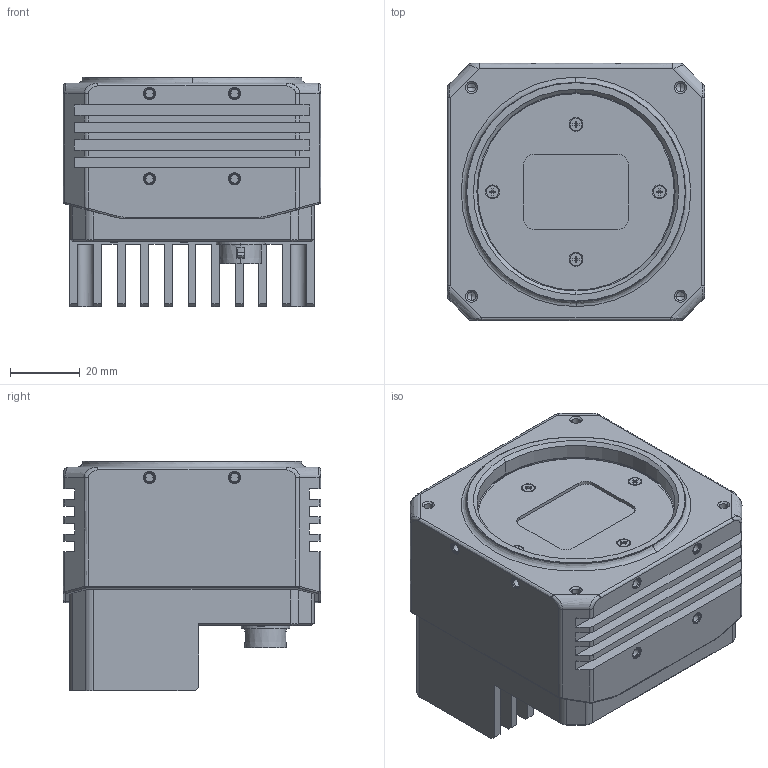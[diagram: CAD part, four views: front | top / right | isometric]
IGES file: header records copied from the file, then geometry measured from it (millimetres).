
Start section:  PTC IGES file: prt0001.igs
Global section: file name: prt0001.igs; native system: Creo Parametric by PTC Inc.; preprocessor: 2017260; author: wangyijun6; organization: Unknown; date: 20211207.141455; units: millimetre
Bounding box: 74 x 74 x 66.13 mm (x, y, z)
Volume: 238825.7 mm3; surface area: 56477.7 mm2
Topology: 1 solids, 35 shells, 1263 faces, 3542 edges, 2558 vertices
Faces by surface type: revolution 664, bspline 599
